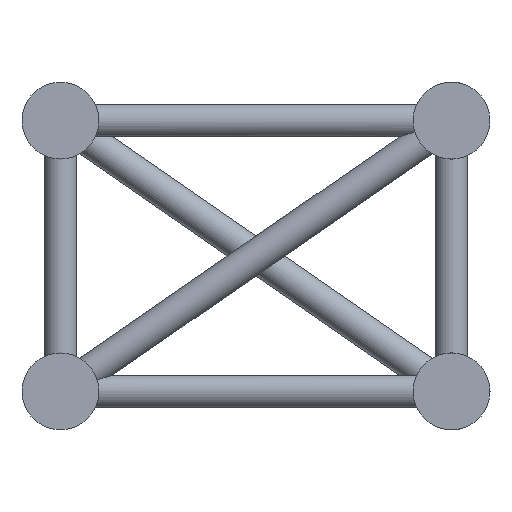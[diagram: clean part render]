
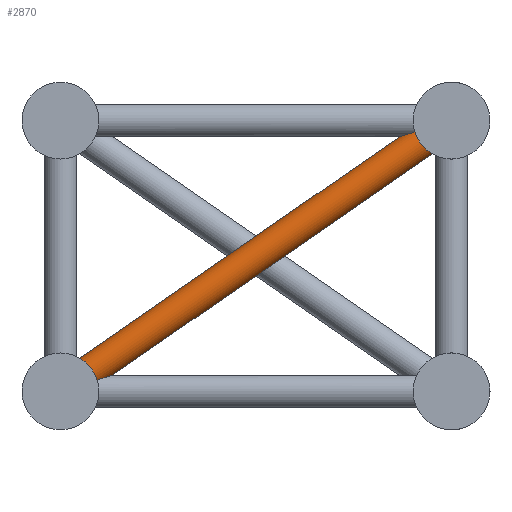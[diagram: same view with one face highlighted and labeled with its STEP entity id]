
A CAD part, left-side view. The second image highlights one B-rep face of the part: STEP entity #2870.
In plain terms, the highlighted cylindrical face has radius 12.5 mm (diameter 25 mm), a full revolution.
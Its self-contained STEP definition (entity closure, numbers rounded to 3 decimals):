
#29=ELLIPSE('',#3140,41.923,12.5);
#30=ELLIPSE('',#3142,41.923,12.5);
#122=FACE_BOUND('',#766,.T.);
#472=FACE_OUTER_BOUND('',#765,.T.);
#765=EDGE_LOOP('',(#2103,#2104));
#766=EDGE_LOOP('',(#2105,#2106));
#1063=CIRCLE('',#3141,12.5);
#1064=CIRCLE('',#3143,12.5);
#1419=VERTEX_POINT('',#6925);
#1420=VERTEX_POINT('',#6926);
#1421=VERTEX_POINT('',#6929);
#1422=VERTEX_POINT('',#6930);
#1669=EDGE_CURVE('',#1419,#1420,#29,.T.);
#1670=EDGE_CURVE('',#1420,#1419,#1063,.T.);
#1671=EDGE_CURVE('',#1421,#1422,#30,.T.);
#1672=EDGE_CURVE('',#1422,#1421,#1064,.T.);
#2103=ORIENTED_EDGE('',*,*,#1669,.F.);
#2104=ORIENTED_EDGE('',*,*,#1670,.F.);
#2105=ORIENTED_EDGE('',*,*,#1671,.F.);
#2106=ORIENTED_EDGE('',*,*,#1672,.F.);
#2550=CYLINDRICAL_SURFACE('',#3139,12.5);
#2870=ADVANCED_FACE('',(#472,#122),#2550,.T.);
#3139=AXIS2_PLACEMENT_3D('',#6924,#3670,#3671);
#3140=AXIS2_PLACEMENT_3D('',#6927,#3672,#3673);
#3141=AXIS2_PLACEMENT_3D('',#6928,#3674,#3675);
#3142=AXIS2_PLACEMENT_3D('',#6931,#3676,#3677);
#3143=AXIS2_PLACEMENT_3D('',#6932,#3678,#3679);
#3670=DIRECTION('center_axis',(0.,-0.822,
0.569));
#3671=DIRECTION('ref_axis',(1.,0.,0.));
#3672=DIRECTION('center_axis',(0.,0.298,
0.955));
#3673=DIRECTION('ref_axis',(0.,0.955,-0.298));
#3674=DIRECTION('center_axis',(0.,-0.822,
0.569));
#3675=DIRECTION('ref_axis',(1.,0.,0.));
#3676=DIRECTION('center_axis',(0.,-0.298,
-0.955));
#3677=DIRECTION('ref_axis',(0.,0.955,-0.298));
#3678=DIRECTION('center_axis',(0.,0.822,-0.569));
#3679=DIRECTION('ref_axis',(1.,0.,0.));
#6924=CARTESIAN_POINT('Origin',(92.5,278.173,-192.581));
#6925=CARTESIAN_POINT('',(102.177,25.331,-7.913));
#6926=CARTESIAN_POINT('',(82.823,25.331,-7.913));
#6927=CARTESIAN_POINT('Origin',(92.5,0.,0.));
#6928=CARTESIAN_POINT('Origin',(92.5,20.827,-14.419));
#6929=CARTESIAN_POINT('',(102.177,273.669,-199.087));
#6930=CARTESIAN_POINT('',(82.823,273.669,-199.087));
#6931=CARTESIAN_POINT('Origin',(92.5,299.,-207.));
#6932=CARTESIAN_POINT('Origin',(92.5,278.173,-192.581));
